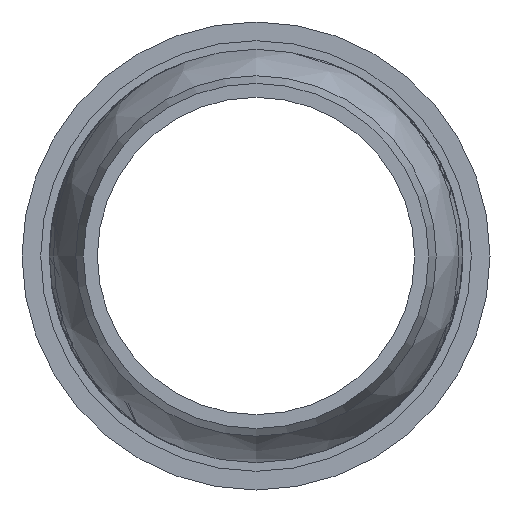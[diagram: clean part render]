
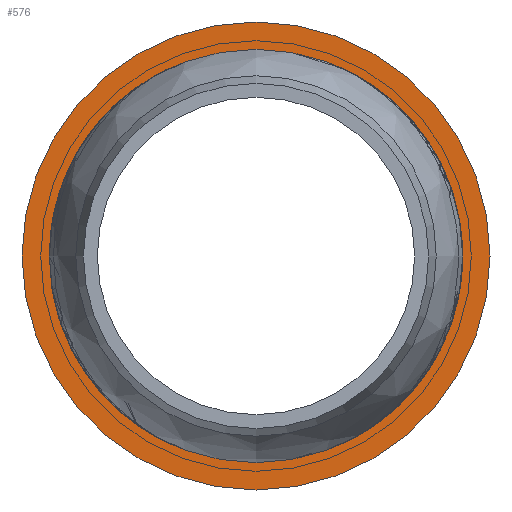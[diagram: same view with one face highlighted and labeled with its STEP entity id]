
A CAD part, left-side view. The second image highlights one B-rep face of the part: STEP entity #576.
In plain terms, the highlighted planar face has unit normal (-1, 0, 0).
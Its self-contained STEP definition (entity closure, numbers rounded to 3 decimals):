
#82=PLANE('',#641);
#113=FACE_BOUND('',#210,.T.);
#149=FACE_OUTER_BOUND('',#209,.T.);
#209=EDGE_LOOP('',(#490));
#210=EDGE_LOOP('',(#491));
#244=CIRCLE('',#640,28.15);
#245=CIRCLE('',#642,32.55);
#301=VERTEX_POINT('',#2075);
#302=VERTEX_POINT('',#2078);
#366=EDGE_CURVE('',#301,#301,#244,.T.);
#367=EDGE_CURVE('',#302,#302,#245,.T.);
#490=ORIENTED_EDGE('',*,*,#367,.F.);
#491=ORIENTED_EDGE('',*,*,#366,.T.);
#576=ADVANCED_FACE('',(#149,#113),#82,.T.);
#640=AXIS2_PLACEMENT_3D('',#2076,#760,#761);
#641=AXIS2_PLACEMENT_3D('',#2077,#762,#763);
#642=AXIS2_PLACEMENT_3D('',#2079,#764,#765);
#760=DIRECTION('center_axis',(1.,0.,0.));
#761=DIRECTION('ref_axis',(0.,0.,
1.));
#762=DIRECTION('center_axis',(-1.,0.,0.));
#763=DIRECTION('ref_axis',(0.,0.,-1.));
#764=DIRECTION('center_axis',(1.,0.,0.));
#765=DIRECTION('ref_axis',(0.,0.,
1.));
#2075=CARTESIAN_POINT('',(782.85,-28.15,0.));
#2076=CARTESIAN_POINT('Origin',(782.85,0.,
0.));
#2077=CARTESIAN_POINT('Origin',(782.85,-32.55,0.));
#2078=CARTESIAN_POINT('',(782.85,-32.55,0.));
#2079=CARTESIAN_POINT('Origin',(782.85,0.,
0.));
